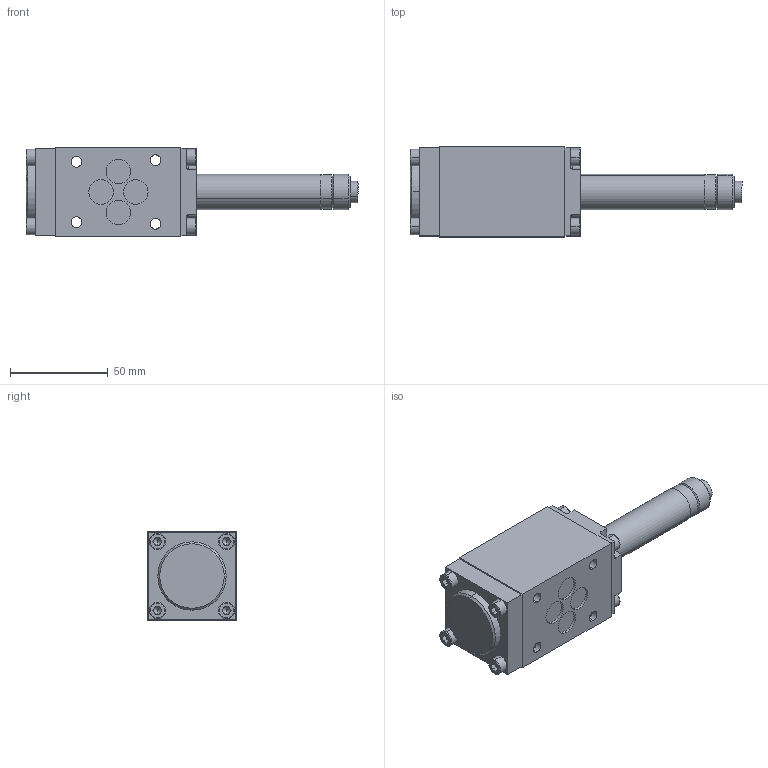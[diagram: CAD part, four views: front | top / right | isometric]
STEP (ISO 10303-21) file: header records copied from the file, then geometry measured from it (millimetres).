
FILE_DESCRIPTION (( 'STEP AP214' ), '1' );
FILE_NAME ('AEXd32060b.STEP', '2017-03-02T06:56:11', ( '' ), ( '' ), 'SwSTEP 2.0', 'SolidWorks 2016', '' );
FILE_SCHEMA (( 'AUTOMOTIVE_DESIGN' ));
Length unit declared in the file: millimetre
Products named in the file (1): AEXd32060b
Bounding box: 169.9 x 46 x 46 mm (x, y, z)
Volume: 189250.3 mm3; surface area: 32578 mm2
Topology: 1 solids, 6 shells, 694 faces, 1780 edges, 1124 vertices
Faces by surface type: plane 464, cylinder 127, cone 59, torus 38, bspline 6
Entity records: 29261 total; most frequent: CARTESIAN_POINT 4631, DIRECTION 3526, ORIENTED_EDGE 3500, EDGE_CURVE 1750, VECTOR 1244, LINE 1244, AXIS2_PLACEMENT_3D 1141, VERTEX_POINT 1124
